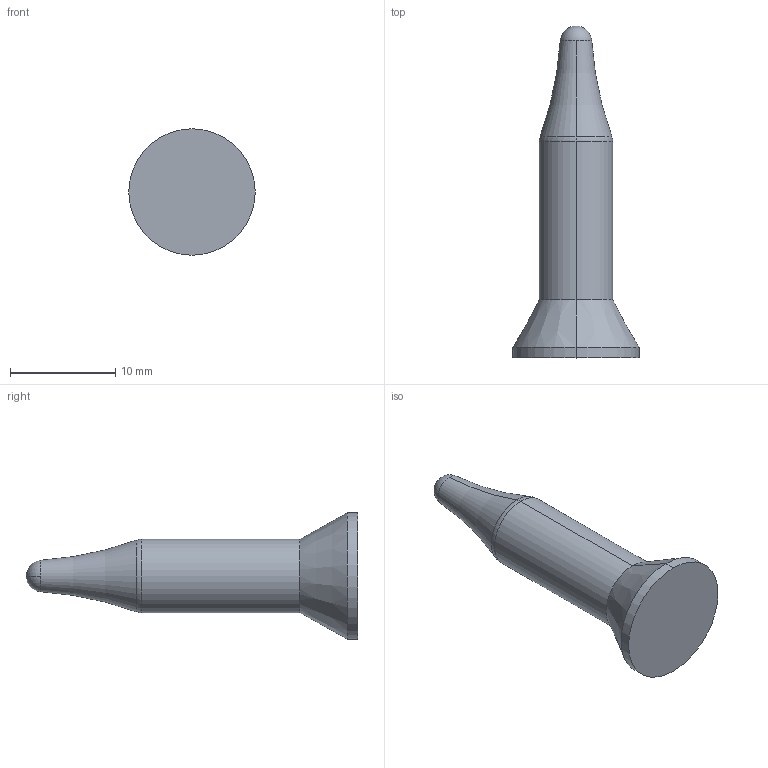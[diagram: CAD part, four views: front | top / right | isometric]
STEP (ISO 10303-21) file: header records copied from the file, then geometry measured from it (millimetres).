
FILE_DESCRIPTION (( 'STEP AP203' ), '1' );
FILE_NAME ('KCF-SW-PN-6P.STEP', '2022-04-04T08:01:00', ( '' ), ( '' ), 'SwSTEP 2.0', 'SolidWorks 2015', '' );
FILE_SCHEMA (( 'CONFIG_CONTROL_DESIGN' ));
Length unit declared in the file: millimetre
Products named in the file (2): KCF-SW-PN-6P
Bounding box: 12 x 31.5 x 12 mm (x, y, z)
Volume: 1192.4 mm3; surface area: 789.6 mm2
Topology: 1 solids, 1 shells, 13 faces, 26 edges, 15 vertices
Faces by surface type: cylinder 4, torus 4, cone 2, sphere 2, plane 1
Entity records: 499 total; most frequent: DIRECTION 76, CARTESIAN_POINT 56, ORIENTED_EDGE 52, AXIS2_PLACEMENT_3D 35, EDGE_CURVE 26, CIRCLE 20, PERSON_AND_ORGANIZATION 16, VERTEX_POINT 15
